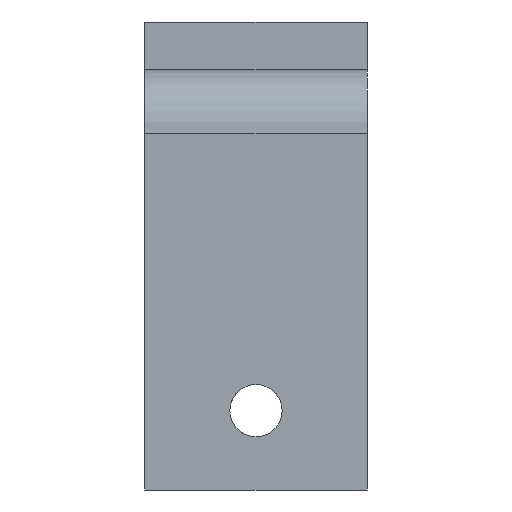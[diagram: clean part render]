
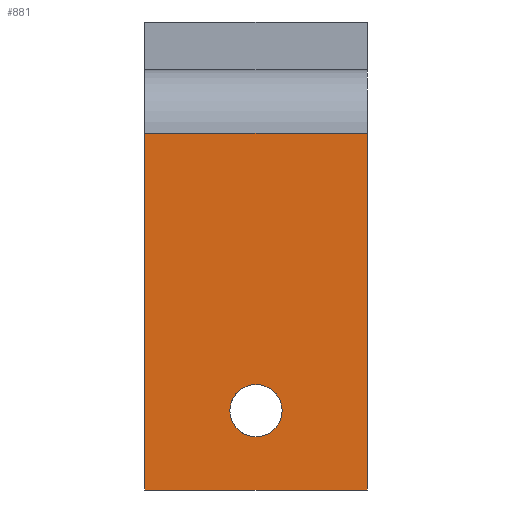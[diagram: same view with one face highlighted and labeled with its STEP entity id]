
A CAD part, left-side view. The second image highlights one B-rep face of the part: STEP entity #881.
In plain terms, the highlighted planar face has unit normal (-1, 0, 0).
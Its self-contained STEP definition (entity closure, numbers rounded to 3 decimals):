
#1 = EDGE_LOOP ( 'NONE', ( #631, #1823 ) ) ;
#3 = DIRECTION ( 'NONE',  ( 0., 0., 1. ) ) ;
#68 = VECTOR ( 'NONE', #689, 1000. ) ;
#121 = EDGE_CURVE ( 'NONE', #475, #442, #1411, .T. ) ;
#128 = ORIENTED_EDGE ( 'NONE', *, *, #1750, .F. ) ;
#144 = CARTESIAN_POINT ( 'NONE',  ( -16.99, 14., 7.5 ) ) ;
#172 = CARTESIAN_POINT ( 'NONE',  ( -16.99, 14., 0. ) ) ;
#195 = FACE_OUTER_BOUND ( 'NONE', #796, .T. ) ;
#221 = AXIS2_PLACEMENT_3D ( 'NONE', #711, #594, #1595 ) ;
#235 = CARTESIAN_POINT ( 'NONE',  ( -16.99, 7., -10. ) ) ;
#244 = ORIENTED_EDGE ( 'NONE', *, *, #739, .T. ) ;
#253 = CARTESIAN_POINT ( 'NONE',  ( -16.99, 14., 7.5 ) ) ;
#263 = CARTESIAN_POINT ( 'NONE',  ( -16.99, 0., -15. ) ) ;
#279 = VECTOR ( 'NONE', #3, 1000. ) ;
#280 = VECTOR ( 'NONE', #1503, 1000. ) ;
#332 = PLANE ( 'NONE',  #578 ) ;
#355 = VERTEX_POINT ( 'NONE', #263 ) ;
#358 = CARTESIAN_POINT ( 'NONE',  ( -16.99, 0., 0. ) ) ;
#423 = ORIENTED_EDGE ( 'NONE', *, *, #1171, .T. ) ;
#442 = VERTEX_POINT ( 'NONE', #882 ) ;
#475 = VERTEX_POINT ( 'NONE', #728 ) ;
#504 = LINE ( 'NONE', #253, #280 ) ;
#520 = DIRECTION ( 'NONE',  ( 0., 0., 1. ) ) ;
#578 = AXIS2_PLACEMENT_3D ( 'NONE', #758, #617, #893 ) ;
#590 = FACE_BOUND ( 'NONE', #1, .T. ) ;
#594 = DIRECTION ( 'NONE',  ( -1., 0., 0. ) ) ;
#617 = DIRECTION ( 'NONE',  ( 1., 0., 0. ) ) ;
#631 = ORIENTED_EDGE ( 'NONE', *, *, #121, .F. ) ;
#678 = ORIENTED_EDGE ( 'NONE', *, *, #1239, .T. ) ;
#681 = CARTESIAN_POINT ( 'NONE',  ( -16.99, 0., 7.5 ) ) ;
#689 = DIRECTION ( 'NONE',  ( 0., -1., 0. ) ) ;
#698 = VERTEX_POINT ( 'NONE', #144 ) ;
#711 = CARTESIAN_POINT ( 'NONE',  ( -16.99, 7., -10. ) ) ;
#728 = CARTESIAN_POINT ( 'NONE',  ( -16.99, 7., -8.35 ) ) ;
#737 = CARTESIAN_POINT ( 'NONE',  ( -16.99, 14., -15. ) ) ;
#739 = EDGE_CURVE ( 'NONE', #1488, #355, #1696, .T. ) ;
#751 = VERTEX_POINT ( 'NONE', #681 ) ;
#758 = CARTESIAN_POINT ( 'NONE',  ( -16.99, 14., 0. ) ) ;
#796 = EDGE_LOOP ( 'NONE', ( #678, #423, #128, #244 ) ) ;
#881 = ADVANCED_FACE ( 'NONE', ( #195, #590 ), #332, .F. ) ;
#882 = CARTESIAN_POINT ( 'NONE',  ( -16.99, 7., -11.65 ) ) ;
#893 = DIRECTION ( 'NONE',  ( 0., 0., -1. ) ) ;
#898 = VECTOR ( 'NONE', #1493, 1000. ) ;
#922 = EDGE_CURVE ( 'NONE', #442, #475, #1784, .T. ) ;
#989 = AXIS2_PLACEMENT_3D ( 'NONE', #235, #1211, #520 ) ;
#1145 = LINE ( 'NONE', #172, #279 ) ;
#1171 = EDGE_CURVE ( 'NONE', #751, #698, #504, .T. ) ;
#1211 = DIRECTION ( 'NONE',  ( -1., 0., 0. ) ) ;
#1239 = EDGE_CURVE ( 'NONE', #355, #751, #1633, .T. ) ;
#1411 = CIRCLE ( 'NONE', #221, 1.65 ) ;
#1488 = VERTEX_POINT ( 'NONE', #737 ) ;
#1493 = DIRECTION ( 'NONE',  ( 0., 0., 1. ) ) ;
#1503 = DIRECTION ( 'NONE',  ( 0., 1., 0. ) ) ;
#1569 = CARTESIAN_POINT ( 'NONE',  ( -16.99, 14., -15. ) ) ;
#1595 = DIRECTION ( 'NONE',  ( 0., 0., 1. ) ) ;
#1633 = LINE ( 'NONE', #358, #898 ) ;
#1696 = LINE ( 'NONE', #1569, #68 ) ;
#1750 = EDGE_CURVE ( 'NONE', #1488, #698, #1145, .T. ) ;
#1784 = CIRCLE ( 'NONE', #989, 1.65 ) ;
#1823 = ORIENTED_EDGE ( 'NONE', *, *, #922, .F. ) ;
